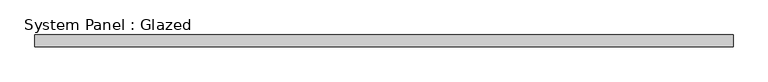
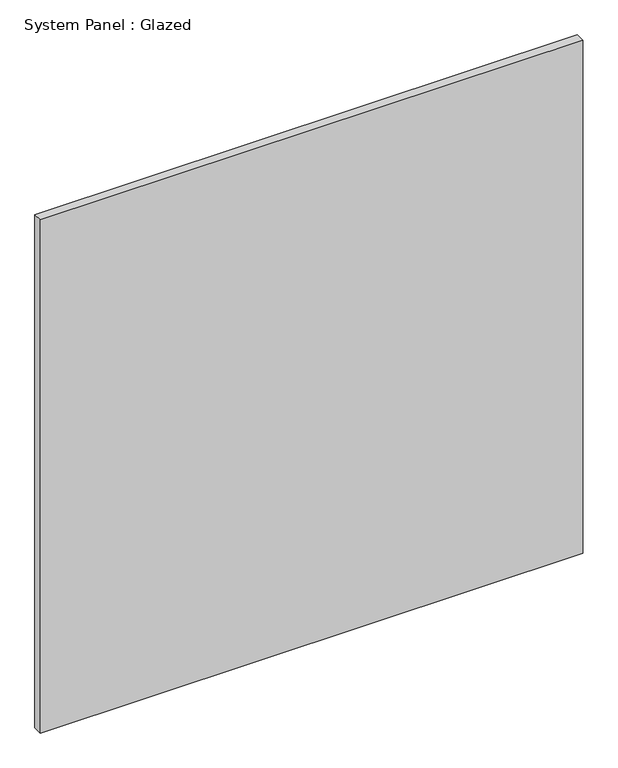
"""IFC4 building model written with IfcOpenShell, lengths in millimetres: plate geometry, System Panel : Glazed."""

from ifc_helpers import new_model, si_unit, origin, origin_with_axes, place, context, project, spatial, polyline, outline, extrude, source, transform, mapped, element, save


def system_panel_glazed_7c4ff273(model_context):
    return source(origin(), model_context, "Body", "SweptSolid", [
        extrude(outline(polyline([(737.0, 24.5), (-737.0, 24.5), (-737.0, 49.5), (737.0, 49.5), (737.0, 24.5)])), origin_with_axes(), (0.0, 0.0, 1.0), 1474.0),
    ])


if __name__ == "__main__":
    model = new_model("IFC4")
    model_context = context("Model", 3, world=origin())
    ifc_project = project(units=[si_unit("LENGTHUNIT", "METRE", prefix="MILLI")], contexts=[model_context])
    site = spatial("IfcSite", under=ifc_project)
    building = spatial("IfcBuilding", under=site)
    placement = place(None, origin())
    system_panel_glazed_shape = system_panel_glazed_7c4ff273(model_context)
    element("IfcPlate", 1, ObjectType="System Panel : Glazed", at=placement, inside=building, context=model_context, shape_type="MappedRepresentation", body=[
        mapped(system_panel_glazed_shape, transform((0.0, 0.0, 0.0), x_axis=(1.0, 0.0, 0.0), y_axis=(0.0, 1.0, 0.0), z_axis=(0.0, 0.0, 1.0))),
    ])
    save(model, "model.ifc")
